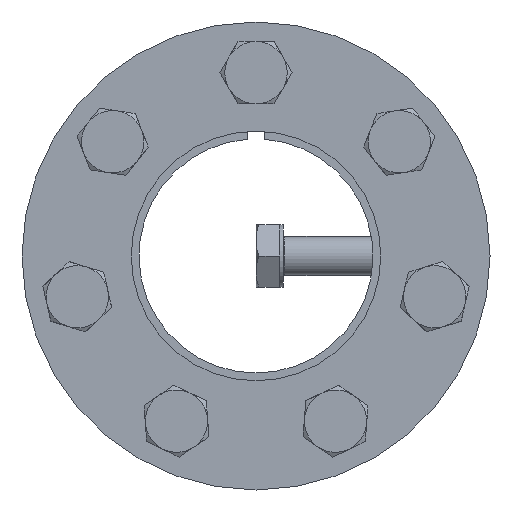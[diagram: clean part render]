
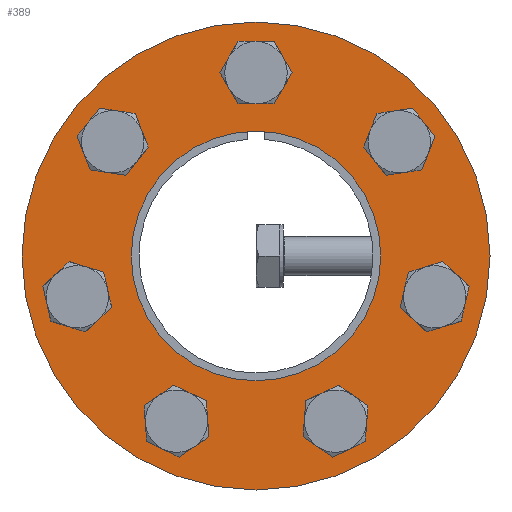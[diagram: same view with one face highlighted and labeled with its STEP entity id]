
A CAD part, front view. The second image highlights one B-rep face of the part: STEP entity #389.
In plain terms, the highlighted planar face has unit normal (0, -1, 0).
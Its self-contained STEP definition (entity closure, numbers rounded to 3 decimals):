
#389 = ADVANCED_FACE( '', ( #686, #687, #688, #689, #690, #691, #692, #693, #694 ), #695, .F. );
#686 = FACE_BOUND( '', #884, .T. );
#687 = FACE_BOUND( '', #885, .T. );
#688 = FACE_BOUND( '', #886, .T. );
#689 = FACE_OUTER_BOUND( '', #887, .T. );
#690 = FACE_BOUND( '', #888, .T. );
#691 = FACE_BOUND( '', #889, .T. );
#692 = FACE_BOUND( '', #890, .T. );
#693 = FACE_BOUND( '', #891, .T. );
#694 = FACE_BOUND( '', #892, .T. );
#695 = PLANE( '', #893 );
#884 = EDGE_LOOP( '', ( #1225 ) );
#885 = EDGE_LOOP( '', ( #1226 ) );
#886 = EDGE_LOOP( '', ( #1227 ) );
#887 = EDGE_LOOP( '', ( #1228 ) );
#888 = EDGE_LOOP( '', ( #1229 ) );
#889 = EDGE_LOOP( '', ( #1230 ) );
#890 = EDGE_LOOP( '', ( #1231 ) );
#891 = EDGE_LOOP( '', ( #1232 ) );
#892 = EDGE_LOOP( '', ( #1233 ) );
#893 = AXIS2_PLACEMENT_3D( '', #1234, #1235, #1236 );
#1225 = ORIENTED_EDGE( '', *, *, #1478, .T. );
#1226 = ORIENTED_EDGE( '', *, *, #1484, .T. );
#1227 = ORIENTED_EDGE( '', *, *, #1490, .T. );
#1228 = ORIENTED_EDGE( '', *, *, #1434, .T. );
#1229 = ORIENTED_EDGE( '', *, *, #1501, .F. );
#1230 = ORIENTED_EDGE( '', *, *, #1493, .T. );
#1231 = ORIENTED_EDGE( '', *, *, #1487, .T. );
#1232 = ORIENTED_EDGE( '', *, *, #1481, .T. );
#1233 = ORIENTED_EDGE( '', *, *, #1476, .T. );
#1234 = CARTESIAN_POINT( '', ( 0., -11., 30. ) );
#1235 = DIRECTION( '', ( 0., 1., 0. ) );
#1236 = DIRECTION( '', ( 0., 0., 1. ) );
#1434 = EDGE_CURVE( '', #1581, #1581, #1582, .T. );
#1476 = EDGE_CURVE( '', #1657, #1657, #1658, .T. );
#1478 = EDGE_CURVE( '', #1661, #1661, #1662, .T. );
#1481 = EDGE_CURVE( '', #1667, #1667, #1668, .T. );
#1484 = EDGE_CURVE( '', #1673, #1673, #1674, .T. );
#1487 = EDGE_CURVE( '', #1679, #1679, #1680, .T. );
#1490 = EDGE_CURVE( '', #1685, #1685, #1686, .T. );
#1493 = EDGE_CURVE( '', #1691, #1691, #1692, .T. );
#1501 = EDGE_CURVE( '', #1703, #1703, #1704, .T. );
#1581 = VERTEX_POINT( '', #1716 );
#1582 = CIRCLE( '', #1717, 30. );
#1657 = VERTEX_POINT( '', #1832 );
#1658 = CIRCLE( '', #1833, 2.5 );
#1661 = VERTEX_POINT( '', #1836 );
#1662 = CIRCLE( '', #1837, 2.5 );
#1667 = VERTEX_POINT( '', #1842 );
#1668 = CIRCLE( '', #1843, 2.5 );
#1673 = VERTEX_POINT( '', #1848 );
#1674 = CIRCLE( '', #1849, 2.5 );
#1679 = VERTEX_POINT( '', #1854 );
#1680 = CIRCLE( '', #1855, 2.5 );
#1685 = VERTEX_POINT( '', #1860 );
#1686 = CIRCLE( '', #1861, 2.5 );
#1691 = VERTEX_POINT( '', #1866 );
#1692 = CIRCLE( '', #1867, 2.5 );
#1703 = VERTEX_POINT( '', #1878 );
#1704 = CIRCLE( '', #1879, 16. );
#1716 = CARTESIAN_POINT( '', ( 0., -11., -30. ) );
#1717 = AXIS2_PLACEMENT_3D( '', #1896, #1897, #1898 );
#1832 = CARTESIAN_POINT( '', ( -16.814, -11., 16.607 ) );
#1833 = AXIS2_PLACEMENT_3D( '', #1966, #1967, #1968 );
#1836 = CARTESIAN_POINT( '', ( -23.467, -11., -2.792 ) );
#1837 = AXIS2_PLACEMENT_3D( '', #1972, #1973, #1974 );
#1842 = CARTESIAN_POINT( '', ( -12.449, -11., -20.088 ) );
#1843 = AXIS2_PLACEMENT_3D( '', #1981, #1982, #1983 );
#1848 = CARTESIAN_POINT( '', ( 7.944, -11., -22.257 ) );
#1849 = AXIS2_PLACEMENT_3D( '', #1990, #1991, #1992 );
#1854 = CARTESIAN_POINT( '', ( 22.355, -11., -7.667 ) );
#1855 = AXIS2_PLACEMENT_3D( '', #1999, #2000, #2001 );
#1860 = CARTESIAN_POINT( '', ( 19.932, -11., 12.697 ) );
#1861 = AXIS2_PLACEMENT_3D( '', #2008, #2009, #2010 );
#1866 = CARTESIAN_POINT( '', ( 2.5, -11., 23.5 ) );
#1867 = AXIS2_PLACEMENT_3D( '', #2017, #2018, #2019 );
#1878 = CARTESIAN_POINT( '', ( 0., -11., -16. ) );
#1879 = AXIS2_PLACEMENT_3D( '', #2041, #2042, #2043 );
#1896 = CARTESIAN_POINT( '', ( 0., -11., 0. ) );
#1897 = DIRECTION( '', ( 0., -1., 0. ) );
#1898 = DIRECTION( '', ( 0., 0., -1. ) );
#1966 = CARTESIAN_POINT( '', ( -18.373, -11., 14.652 ) );
#1967 = DIRECTION( '', ( 0., 1., 0. ) );
#1968 = DIRECTION( '', ( 0.623, 0., 0.782 ) );
#1972 = CARTESIAN_POINT( '', ( -22.911, -11., -5.229 ) );
#1973 = DIRECTION( '', ( 0., 1., 0. ) );
#1974 = DIRECTION( '', ( -0.223, 0., 0.975 ) );
#1981 = CARTESIAN_POINT( '', ( -10.196, -11., -21.173 ) );
#1982 = DIRECTION( '', ( 0., 1., 0. ) );
#1983 = DIRECTION( '', ( -0.901, 0., 0.434 ) );
#1990 = CARTESIAN_POINT( '', ( 10.196, -11., -21.173 ) );
#1991 = DIRECTION( '', ( 0., 1., 0. ) );
#1992 = DIRECTION( '', ( -0.901, 0., -0.434 ) );
#1999 = CARTESIAN_POINT( '', ( 22.911, -11., -5.229 ) );
#2000 = DIRECTION( '', ( 0., 1., 0. ) );
#2001 = DIRECTION( '', ( -0.223, 0., -0.975 ) );
#2008 = CARTESIAN_POINT( '', ( 18.373, -11., 14.652 ) );
#2009 = DIRECTION( '', ( 0., 1., 0. ) );
#2010 = DIRECTION( '', ( 0.623, 0., -0.782 ) );
#2017 = CARTESIAN_POINT( '', ( 0., -11., 23.5 ) );
#2018 = DIRECTION( '', ( 0., 1., 0. ) );
#2019 = DIRECTION( '', ( 1., 0., 0. ) );
#2041 = CARTESIAN_POINT( '', ( 0., -11., 0. ) );
#2042 = DIRECTION( '', ( 0., -1., 0. ) );
#2043 = DIRECTION( '', ( 0., 0., -1. ) );
